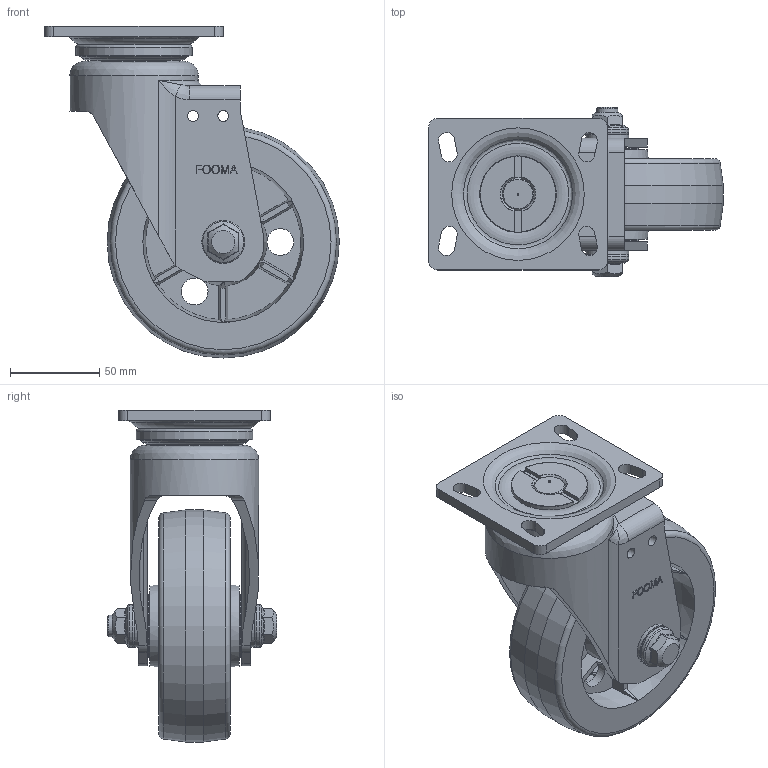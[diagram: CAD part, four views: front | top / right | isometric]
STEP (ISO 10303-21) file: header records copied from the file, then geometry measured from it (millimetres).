
FILE_DESCRIPTION((''),'2;1');
FILE_NAME('C:\Documents and Settings\Administrator\바탕 화면\3D STEP\PH-SERIES\PH-130\PH-130A-SF.stp','2010-12-27T14:45:13',('Administrator'),(''),'Autodesk Inventor 2009','Autodesk Inventor 2009','');
FILE_SCHEMA(('AUTOMOTIVE_DESIGN { 1 0 10303 214 1 1 1 1 }'));
Length unit declared in the file: millimetre
Products named in the file (1): PH-130A-SF
Bounding box: 165 x 94.8 x 185.98 mm (x, y, z)
Volume: 431044 mm3; surface area: 162594.2 mm2
Topology: 11 solids, 13 shells, 576 faces, 1503 edges, 980 vertices
Faces by surface type: bspline 204, plane 204, cylinder 83, cone 47, torus 38
Full cylindrical faces by diameter (mm): 1 x1, 6.1 x4, 12 x1, 15 x5, 15.2 x2, 18.5 x1, 21.5 x1, 22 x1, 24 x4, 29.9 x1, 30 x2, 30.5 x2, 31.615 x2, 35 x2, 35.02 x2, 41 x1, 42.8 x1, 44 x2, 48.961 x2, 61 x1, 62 x1, 63.14 x1, 65.14 x1, 72 x1, 130 x1
Entity records: 20665 total; most frequent: CARTESIAN_POINT 8334, ORIENTED_EDGE 2716, DIRECTION 2020, EDGE_CURVE 1358, VERTEX_POINT 948, EDGE_LOOP 770, AXIS2_PLACEMENT_3D 763, FACE_OUTER_BOUND 574
